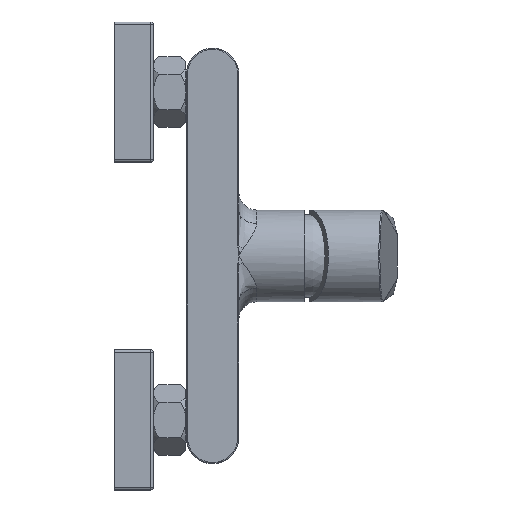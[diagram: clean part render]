
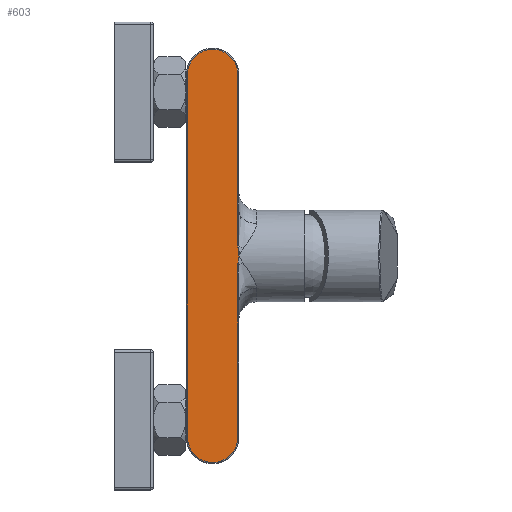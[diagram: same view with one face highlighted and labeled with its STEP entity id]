
A CAD part, top view. The second image highlights one B-rep face of the part: STEP entity #603.
In plain terms, the highlighted planar face has unit normal (0, 0, 1).
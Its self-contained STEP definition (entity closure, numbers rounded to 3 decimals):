
#447=B_SPLINE_CURVE_WITH_KNOTS('',3,(#6967,#6968,#6969,#6970,#6971,#6972,
#6973,#6974,#6975,#6976),.UNSPECIFIED.,.F.,.F.,(4,3,3,4),(0.,0.218,
0.994,1.),.UNSPECIFIED.);
#448=B_SPLINE_CURVE_WITH_KNOTS('',3,(#6978,#6979,#6980,#6981,#6982,#6983,
#6984,#6985,#6986,#6987),.UNSPECIFIED.,.F.,.F.,(4,3,3,4),(0.,0.006,
0.782,1.),.UNSPECIFIED.);
#603=ADVANCED_FACE('',(#1053),#928,.F.);
#928=PLANE('',#4961);
#1053=FACE_OUTER_BOUND('',#1325,.T.);
#1325=EDGE_LOOP('',(#2452,#2453,#2454,#2455,#2456,#2457,#2458,#2459,#2460));
#1705=LINE('',#6958,#1939);
#1706=LINE('',#6965,#1940);
#1707=LINE('',#6989,#1941);
#1939=VECTOR('',#5545,1.);
#1940=VECTOR('',#5550,1.);
#1941=VECTOR('',#5551,1.);
#2176=CIRCLE('',#4957,11.5);
#2177=CIRCLE('',#4958,11.5);
#2178=CIRCLE('',#4959,11.5);
#2179=CIRCLE('',#4960,11.5);
#2452=ORIENTED_EDGE('',*,*,#4265,.T.);
#2453=ORIENTED_EDGE('',*,*,#4266,.T.);
#2454=ORIENTED_EDGE('',*,*,#4267,.T.);
#2455=ORIENTED_EDGE('',*,*,#4268,.T.);
#2456=ORIENTED_EDGE('',*,*,#4269,.T.);
#2457=ORIENTED_EDGE('',*,*,#4270,.T.);
#2458=ORIENTED_EDGE('',*,*,#4271,.T.);
#2459=ORIENTED_EDGE('',*,*,#4272,.T.);
#2460=ORIENTED_EDGE('',*,*,#4273,.T.);
#3832=VERTEX_POINT('',#6959);
#3833=VERTEX_POINT('',#6960);
#3834=VERTEX_POINT('',#6962);
#3835=VERTEX_POINT('',#6964);
#3836=VERTEX_POINT('',#6966);
#3837=VERTEX_POINT('',#6977);
#3838=VERTEX_POINT('',#6988);
#3839=VERTEX_POINT('',#6990);
#3840=VERTEX_POINT('',#6992);
#4265=EDGE_CURVE('',#3832,#3833,#1705,.T.);
#4266=EDGE_CURVE('',#3833,#3834,#2176,.T.);
#4267=EDGE_CURVE('',#3834,#3835,#2177,.T.);
#4268=EDGE_CURVE('',#3835,#3836,#1706,.T.);
#4269=EDGE_CURVE('',#3836,#3837,#447,.T.);
#4270=EDGE_CURVE('',#3837,#3838,#448,.T.);
#4271=EDGE_CURVE('',#3838,#3839,#1707,.T.);
#4272=EDGE_CURVE('',#3839,#3840,#2178,.T.);
#4273=EDGE_CURVE('',#3840,#3832,#2179,.T.);
#4957=AXIS2_PLACEMENT_3D('',#6961,#5546,#5547);
#4958=AXIS2_PLACEMENT_3D('',#6963,#5548,#5549);
#4959=AXIS2_PLACEMENT_3D('',#6991,#5552,#5553);
#4960=AXIS2_PLACEMENT_3D('',#6993,#5554,#5555);
#4961=AXIS2_PLACEMENT_3D('',#6994,#5556,#5557);
#5545=DIRECTION('',(0.,-1.,0.));
#5546=DIRECTION('',(0.,0.,1.));
#5547=DIRECTION('',(-1.,0.,0.));
#5548=DIRECTION('',(0.,0.,1.));
#5549=DIRECTION('',(-1.,0.,0.));
#5550=DIRECTION('',(0.,1.,0.));
#5551=DIRECTION('',(0.,1.,0.));
#5552=DIRECTION('',(0.,0.,1.));
#5553=DIRECTION('',(-1.,0.,0.));
#5554=DIRECTION('',(0.,0.,1.));
#5555=DIRECTION('',(-1.,0.,0.));
#5556=DIRECTION('',(0.,0.,-1.));
#5557=DIRECTION('',(-1.,0.,0.));
#6958=CARTESIAN_POINT('',(-11.5,-83.,20.25));
#6959=CARTESIAN_POINT('',(-11.5,83.,20.25));
#6960=CARTESIAN_POINT('',(-11.5,-83.,20.25));
#6961=CARTESIAN_POINT('',(0.,-83.,20.25));
#6962=CARTESIAN_POINT('',(0.,-94.5,20.25));
#6963=CARTESIAN_POINT('',(0.,-83.,20.25));
#6964=CARTESIAN_POINT('',(11.5,-83.,20.25));
#6965=CARTESIAN_POINT('',(11.5,-95.,20.25));
#6966=CARTESIAN_POINT('',(11.5,-4.555,20.25));
#6967=CARTESIAN_POINT('',(11.5,-4.555,20.25));
#6968=CARTESIAN_POINT('',(11.5,-4.222,20.25));
#6969=CARTESIAN_POINT('',(11.515,-3.888,20.25));
#6970=CARTESIAN_POINT('',(11.539,-3.555,20.25));
#6971=CARTESIAN_POINT('',(11.624,-2.373,20.25));
#6972=CARTESIAN_POINT('',(11.813,-1.2,20.25));
#6973=CARTESIAN_POINT('',(11.996,-0.028,20.25));
#6974=CARTESIAN_POINT('',(11.997,-0.019,20.25));
#6975=CARTESIAN_POINT('',(11.999,-0.009,20.25));
#6976=CARTESIAN_POINT('',(12.,0.,20.25));
#6977=CARTESIAN_POINT('',(12.,0.,20.25));
#6978=CARTESIAN_POINT('',(12.,0.,20.25));
#6979=CARTESIAN_POINT('',(11.999,0.009,20.25));
#6980=CARTESIAN_POINT('',(11.997,0.019,20.25));
#6981=CARTESIAN_POINT('',(11.996,0.028,20.25));
#6982=CARTESIAN_POINT('',(11.813,1.2,20.25));
#6983=CARTESIAN_POINT('',(11.624,2.373,20.25));
#6984=CARTESIAN_POINT('',(11.539,3.555,20.25));
#6985=CARTESIAN_POINT('',(11.515,3.888,20.25));
#6986=CARTESIAN_POINT('',(11.5,4.222,20.25));
#6987=CARTESIAN_POINT('',(11.5,4.555,20.25));
#6988=CARTESIAN_POINT('',(11.5,4.555,20.25));
#6989=CARTESIAN_POINT('',(11.5,-95.,20.25));
#6990=CARTESIAN_POINT('',(11.5,83.,20.25));
#6991=CARTESIAN_POINT('',(0.,83.,20.25));
#6992=CARTESIAN_POINT('',(0.,94.5,20.25));
#6993=CARTESIAN_POINT('',(0.,83.,20.25));
#6994=CARTESIAN_POINT('',(-12.,-95.,20.25));
